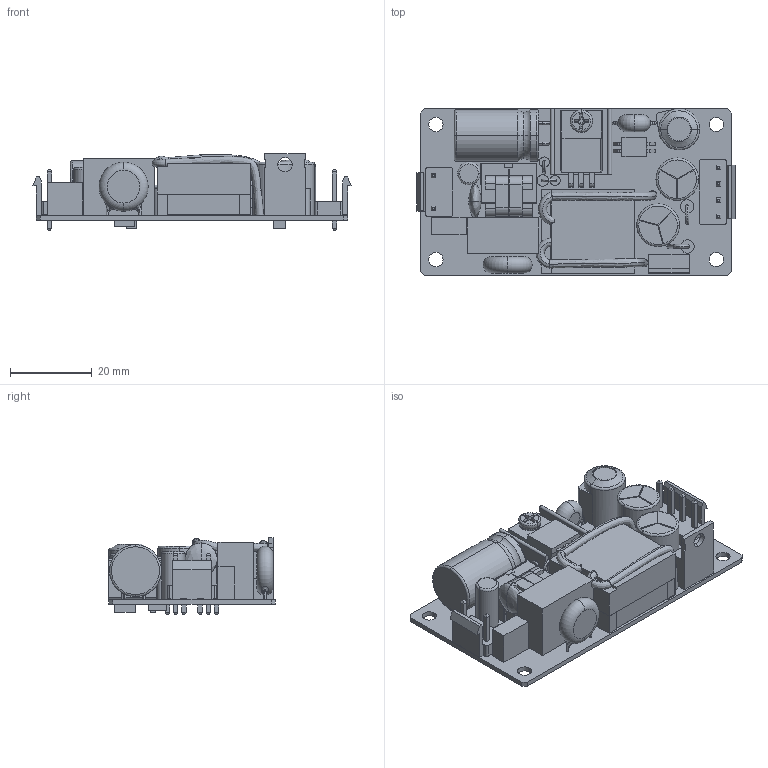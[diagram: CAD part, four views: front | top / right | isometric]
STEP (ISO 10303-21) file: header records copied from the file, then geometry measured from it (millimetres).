
FILE_DESCRIPTION (( 'STEP AP214' ), '1' );
FILE_NAME ('CFM21-T SERIES SPEC-981022.STEP', '2018-02-26T02:49:31', ( 'cincon' ), ( '' ), 'SwSTEP 2.0', 'SolidWorks 2008', '' );
FILE_SCHEMA (( 'AUTOMOTIVE_DESIGN' ));
Length unit declared in the file: millimetre
Products named in the file (8): 3 PIN插座(底)-981022; 3PIN插座組合-981022_預設; CFM21-T SERIES SPEC-981022; 電晶體10mm(附螺絲); CFM21 SERIES散熱片-980706; CFM21-T SERIES SPEC-981022_預設; 4 PIN插座(底)-981022; 4PIN插座組合-981022_預設
Assembly tree (7 placements, depth 3):
  CFM21-T SERIES SPEC-981022
    4PIN插座組合-981022_預設
      4 PIN插座(底)-981022
    電晶體10mm(附螺絲)
    CFM21-T SERIES SPEC-981022_預設
    3PIN插座組合-981022_預設
      3 PIN插座(底)-981022
    CFM21 SERIES散熱片-980706
Bounding box: 77.75 x 40.64 x 18.81 mm (x, y, z)
Volume: 22731.4 mm3; surface area: 19848.2 mm2
Topology: 5 solids, 5 shells, 727 faces, 1939 edges, 1243 vertices
Faces by surface type: plane 500, cylinder 140, torus 42, bspline 35, cone 10
Entity records: 29926 total; most frequent: CARTESIAN_POINT 8486, ORIENTED_EDGE 3870, DIRECTION 3521, EDGE_CURVE 1935, VECTOR 1385, LINE 1385, VERTEX_POINT 1243, AXIS2_PLACEMENT_3D 1068
